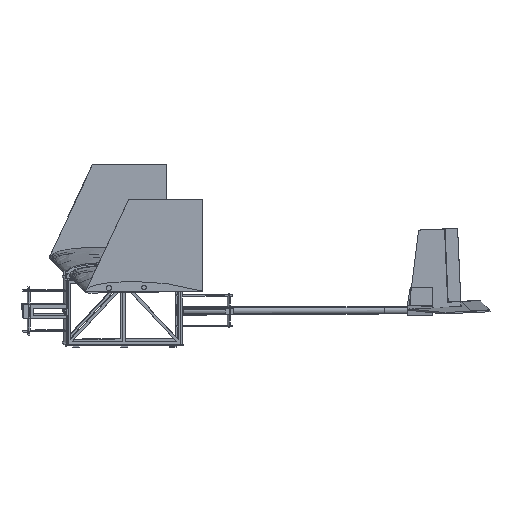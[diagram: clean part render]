
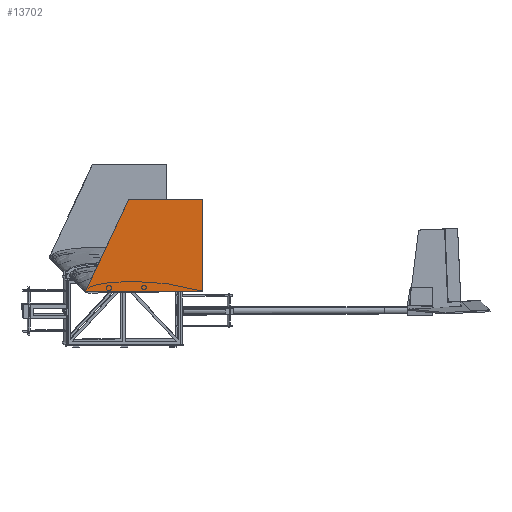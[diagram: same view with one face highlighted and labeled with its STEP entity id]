
A CAD part, front view. The second image highlights one B-rep face of the part: STEP entity #13702.
In plain terms, the highlighted planar face has unit normal (0.044, -0.998, -0.044) as drawn and (1, 0, 0) by its records, which use the part's own axes.
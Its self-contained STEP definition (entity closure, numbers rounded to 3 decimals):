
#1116=FACE_OUTER_BOUND('',#1959,.T.);
#1959=EDGE_LOOP('',(#12384,#12385,#12386,#12387));
#3760=LINE('',#24616,#5571);
#3764=LINE('',#24624,#5575);
#3767=LINE('',#24630,#5578);
#3770=LINE('',#24635,#5581);
#5571=VECTOR('',#17965,10.);
#5575=VECTOR('',#17971,10.);
#5578=VECTOR('',#17976,10.);
#5581=VECTOR('',#17981,10.);
#6813=VERTEX_POINT('',#24614);
#6814=VERTEX_POINT('',#24615);
#6817=VERTEX_POINT('',#24623);
#6819=VERTEX_POINT('',#24629);
#8666=EDGE_CURVE('',#6813,#6814,#3760,.T.);
#8670=EDGE_CURVE('',#6817,#6813,#3764,.T.);
#8673=EDGE_CURVE('',#6819,#6817,#3767,.T.);
#8676=EDGE_CURVE('',#6814,#6819,#3770,.T.);
#12384=ORIENTED_EDGE('',*,*,#8676,.F.);
#12385=ORIENTED_EDGE('',*,*,#8666,.F.);
#12386=ORIENTED_EDGE('',*,*,#8670,.F.);
#12387=ORIENTED_EDGE('',*,*,#8673,.F.);
#13035=PLANE('',#14688);
#13702=ADVANCED_FACE('',(#1116),#13035,.T.);
#14688=AXIS2_PLACEMENT_3D('',#24637,#17983,#17984);
#17965=DIRECTION('',(0.,-1.,0.));
#17971=DIRECTION('',(0.,0.,-1.));
#17976=DIRECTION('',(0.,0.905,-0.425));
#17981=DIRECTION('',(0.,0.,1.));
#17983=DIRECTION('center_axis',(1.,0.,0.));
#17984=DIRECTION('ref_axis',(0.,0.,-1.));
#24614=CARTESIAN_POINT('',(0.,84.515,-63.963));
#24615=CARTESIAN_POINT('',(0.,-115.485,-63.963));
#24616=CARTESIAN_POINT('',(0.,84.515,-63.963));
#24623=CARTESIAN_POINT('',(0.,84.515,96.037));
#24624=CARTESIAN_POINT('',(0.,84.515,96.037));
#24629=CARTESIAN_POINT('',(0.,-115.485,189.995));
#24630=CARTESIAN_POINT('',(0.,-115.485,189.995));
#24635=CARTESIAN_POINT('',(0.,-115.485,-63.963));
#24637=CARTESIAN_POINT('Origin',(0.,-15.485,63.016));
